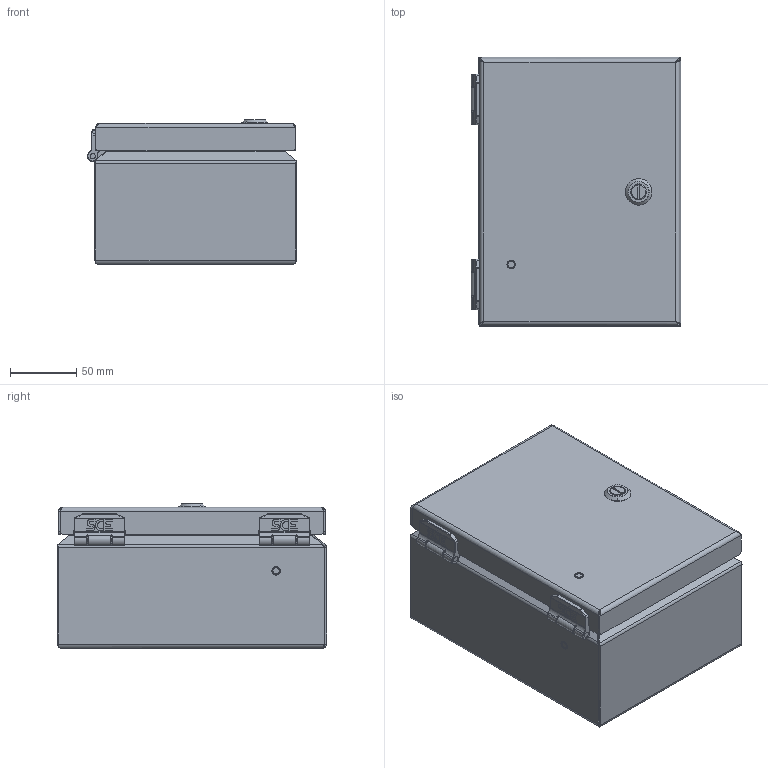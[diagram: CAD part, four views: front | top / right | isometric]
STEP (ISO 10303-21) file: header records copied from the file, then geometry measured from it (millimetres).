
FILE_DESCRIPTION((''),'2;1');
FILE_NAME('MODEL-059_ASM','2025-05-15T15:42:44',('joshi'),('SAGINAW CONTROL & ENGINEERING'),'CREO PARAMETRIC BY PTC INC, 2021284','CREO PARAMETRIC BY PTC INC, 2021284','');
FILE_SCHEMA(('AUTOMOTIVE_DESIGN { 1 0 10303 214 1 1 1 1 }'));
Length unit declared in the file: inch
Products named in the file (25): MODEL-059-BDY; MODEL-059-DR; 112643-BOX-LEAF; 112643-BOX-LEAF-STUD; 112643-BOX_ASM; 112643-DOOR-LEAF; 112643-DOOR-LEAF-STUD; 112643-DOOR_ASM; 112643-PIN; 112643_ASM; 113152; 100097; 100012; 112987_SHAFT; 112987_INSERT; 112984; 112987_SCREW; 112987_NUT; 112987_ASM; MODEL-059-GSKT; 120706; CH-ELJ_SUBPANEL; 102479; CH-ELJ_SUBPANEL-SUBASSEMBLY_ASM; MODEL-059_ASM
Assembly tree (35 placements, depth 4):
  MODEL-059_ASM
    MODEL-059-BDY
    MODEL-059-DR
    112643_ASM  x2
      112643-BOX_ASM
        112643-BOX-LEAF
        112643-BOX-LEAF-STUD
      112643-DOOR_ASM
        112643-DOOR-LEAF
        112643-DOOR-LEAF-STUD
      112643-PIN
    113152  x4
    100097  x2
    100012  x4
    112987_ASM
      112987_SHAFT
      112987_INSERT
      112984
      112987_SCREW
      112987_NUT
    MODEL-059-GSKT
    120706
    CH-ELJ_SUBPANEL-SUBASSEMBLY_ASM
      CH-ELJ_SUBPANEL
      102479  x4
Bounding box: 158 x 203.2 x 109.11 mm (x, y, z)
Volume: 306448.6 mm3; surface area: 374414.7 mm2
Topology: 34 solids, 36 shells, 3020 faces, 7743 edges, 4756 vertices
Faces by surface type: plane 1010, cylinder 886, bspline 862, cone 126, torus 116, sphere 20
Entity records: 105111 total; most frequent: CARTESIAN_POINT 56220, ORIENTED_EDGE 7350, DIRECTION 6180, PRESENTATION_STYLE_ASSIGNMENT 3844, STYLED_ITEM 3844, EDGE_CURVE 3675, CURVE_STYLE 3585, VERTEX_POINT 2294
